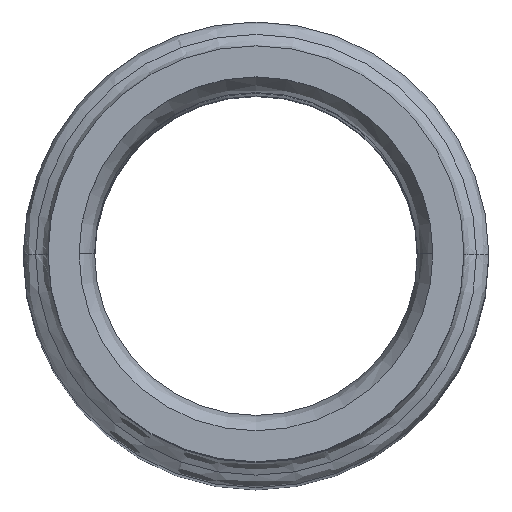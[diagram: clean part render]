
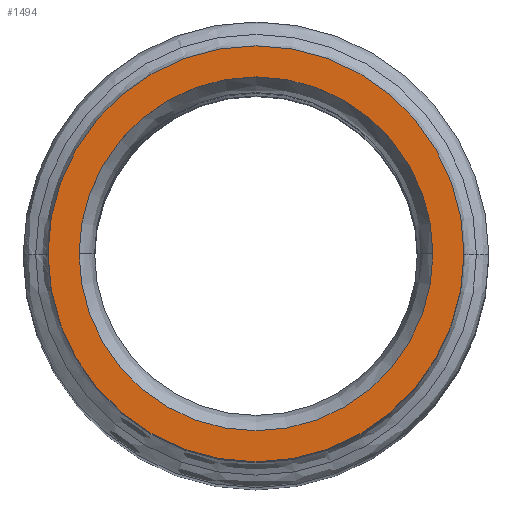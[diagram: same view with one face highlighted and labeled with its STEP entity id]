
A CAD part, top view. The second image highlights one B-rep face of the part: STEP entity #1494.
In plain terms, the highlighted planar face has unit normal (0, 0, 1).
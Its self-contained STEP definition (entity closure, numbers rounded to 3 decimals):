
#45 = EDGE_CURVE ( 'NONE', #1820, #562, #474, .T. ) ;
#123 = EDGE_CURVE ( 'NONE', #562, #1820, #697, .T. ) ;
#252 = CARTESIAN_POINT ( 'NONE',  ( 0., 0., 35. ) ) ;
#260 = FACE_OUTER_BOUND ( 'NONE', #1127, .T. ) ;
#262 = CARTESIAN_POINT ( 'NONE',  ( 0., 0., 35. ) ) ;
#274 = CARTESIAN_POINT ( 'NONE',  ( -13.4, 0., 35. ) ) ;
#397 = DIRECTION ( 'NONE',  ( 1., 0., 0. ) ) ;
#416 = CARTESIAN_POINT ( 'NONE',  ( 13.4, 0., 35. ) ) ;
#474 = CIRCLE ( 'NONE', #1920, 11.4 ) ;
#517 = CARTESIAN_POINT ( 'NONE',  ( 0., 0., 35. ) ) ;
#562 = VERTEX_POINT ( 'NONE', #877 ) ;
#595 = PLANE ( 'NONE',  #1225 ) ;
#617 = DIRECTION ( 'NONE',  ( 0., 0., -1. ) ) ;
#697 = CIRCLE ( 'NONE', #2172, 11.4 ) ;
#736 = AXIS2_PLACEMENT_3D ( 'NONE', #262, #1099, #1755 ) ;
#754 = DIRECTION ( 'NONE',  ( 0., 0., -1. ) ) ;
#877 = CARTESIAN_POINT ( 'NONE',  ( 11.4, 0., 35. ) ) ;
#925 = EDGE_LOOP ( 'NONE', ( #1074, #2145 ) ) ;
#1074 = ORIENTED_EDGE ( 'NONE', *, *, #45, .T. ) ;
#1099 = DIRECTION ( 'NONE',  ( 0., 0., -1. ) ) ;
#1117 = ORIENTED_EDGE ( 'NONE', *, *, #1220, .F. ) ;
#1127 = EDGE_LOOP ( 'NONE', ( #1117, #1959 ) ) ;
#1130 = CARTESIAN_POINT ( 'NONE',  ( 0., 0., 35. ) ) ;
#1190 = CIRCLE ( 'NONE', #1752, 13.4 ) ;
#1214 = CARTESIAN_POINT ( 'NONE',  ( 0., 0., 35. ) ) ;
#1220 = EDGE_CURVE ( 'NONE', #1940, #1866, #1544, .T. ) ;
#1225 = AXIS2_PLACEMENT_3D ( 'NONE', #252, #1266, #397 ) ;
#1266 = DIRECTION ( 'NONE',  ( 0., 0., 1. ) ) ;
#1286 = DIRECTION ( 'NONE',  ( -1., 0., 0. ) ) ;
#1494 = ADVANCED_FACE ( 'NONE', ( #260, #2088 ), #595, .T. ) ;
#1536 = DIRECTION ( 'NONE',  ( -1., 0., 0. ) ) ;
#1544 = CIRCLE ( 'NONE', #736, 13.4 ) ;
#1752 = AXIS2_PLACEMENT_3D ( 'NONE', #517, #1873, #1536 ) ;
#1755 = DIRECTION ( 'NONE',  ( -1., 0., 0. ) ) ;
#1820 = VERTEX_POINT ( 'NONE', #2077 ) ;
#1866 = VERTEX_POINT ( 'NONE', #416 ) ;
#1873 = DIRECTION ( 'NONE',  ( 0., 0., -1. ) ) ;
#1886 = DIRECTION ( 'NONE',  ( -1., 0., 0. ) ) ;
#1920 = AXIS2_PLACEMENT_3D ( 'NONE', #1214, #754, #1886 ) ;
#1940 = VERTEX_POINT ( 'NONE', #274 ) ;
#1959 = ORIENTED_EDGE ( 'NONE', *, *, #2033, .F. ) ;
#2033 = EDGE_CURVE ( 'NONE', #1866, #1940, #1190, .T. ) ;
#2077 = CARTESIAN_POINT ( 'NONE',  ( -11.4, 0., 35. ) ) ;
#2088 = FACE_BOUND ( 'NONE', #925, .T. ) ;
#2145 = ORIENTED_EDGE ( 'NONE', *, *, #123, .T. ) ;
#2172 = AXIS2_PLACEMENT_3D ( 'NONE', #1130, #617, #1286 ) ;
